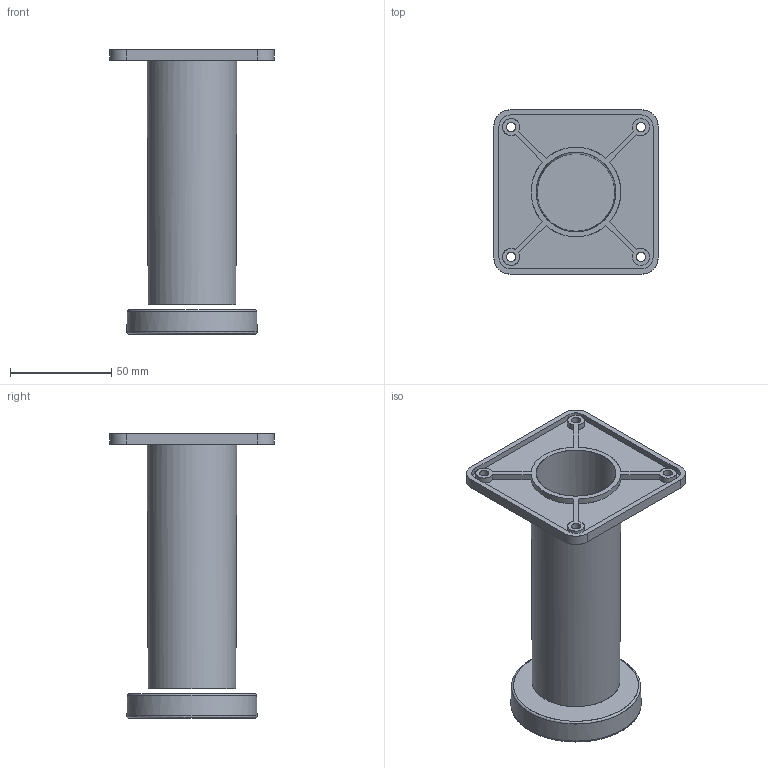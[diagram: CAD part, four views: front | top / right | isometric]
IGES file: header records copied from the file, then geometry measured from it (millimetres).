
Start section: C
Global section: file name: 0927.igs; native system: By Siemens PLM Incorporated; preprocessor: XPlus GENERIC/IGES 16.0.42; author: Author; organization: Title; date: 20231129.092518; units: millimetre
Bounding box: 80.9 x 80.9 x 140.05 mm (x, y, z)
Surface area: 56541 mm2 (no closed solid volume)
Topology: 0 solids, 0 shells, 55 faces, 330 edges, 330 vertices
Faces by surface type: bspline 55
